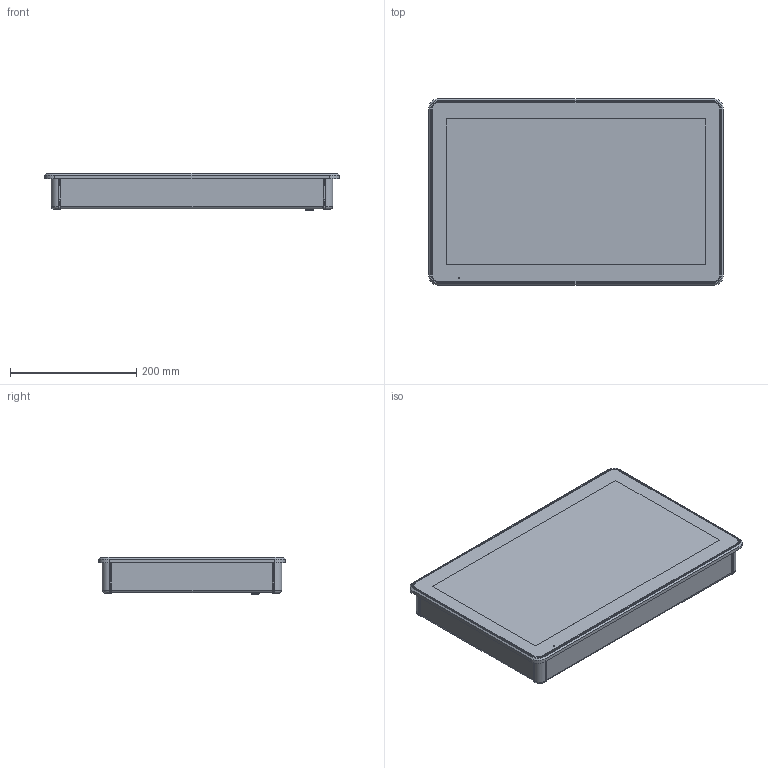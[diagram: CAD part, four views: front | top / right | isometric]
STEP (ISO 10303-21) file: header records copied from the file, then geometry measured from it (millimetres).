
FILE_DESCRIPTION(/* description */ (''),/* implementation_level */ '2;1');
FILE_NAME(/* name */ 'C:\SAPInventorWork\778-43990-00_EXTERN.stp',/* time_stamp */ '2024-05-29T08:46:33+02:00',/* author */ ('Aiple'),/* organization */ (''),/* preprocessor_version */ 'ST-DEVELOPER v18.1',/* originating_system */ 'Autodesk Inventor 2021',/* authorisation */ '');
FILE_SCHEMA (('AUTOMOTIVE_DESIGN { 1 0 10303 214 3 1 1 }'));
Products named in the file (1): 778-43990-00
Bounding box: 466.5 x 295.6 x 58.9 mm (x, y, z)
Volume: 6328115.5 mm3; surface area: 387993.1 mm2
Topology: 1 solids, 59 shells, 3307 faces, 8671 edges, 5713 vertices
Faces by surface type: plane 1792, cylinder 765, bspline 495, cone 243, torus 9, sphere 3
Full cylindrical faces by diameter (mm): 0.457 x1, 2.459 x8, 2.5 x2, 2.8 x2, 2.9 x2, 2.91 x2, 3 x10, 3.242 x6, 3.5 x4, 3.91 x1, 4 x3, 4.22 x8, 4.3 x8, 4.5 x8, 4.7 x2, 4.767 x6, 4.917 x4, 5 x3, 5.2 x1, 5.3 x2, 5.38 x6, 5.4 x6, 5.54 x8, 5.7 x8, 6 x7, 8.107 x4, 8.4 x8, 8.72 x4, 8.8 x4, 11.8 x1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
Entity records: 113504 total; most frequent: CARTESIAN_POINT 31810, ORIENTED_EDGE 17338, DIRECTION 14008, EDGE_CURVE 8669, VERTEX_POINT 5713, LINE 5522, VECTOR 5522, AXIS2_PLACEMENT_3D 4243
